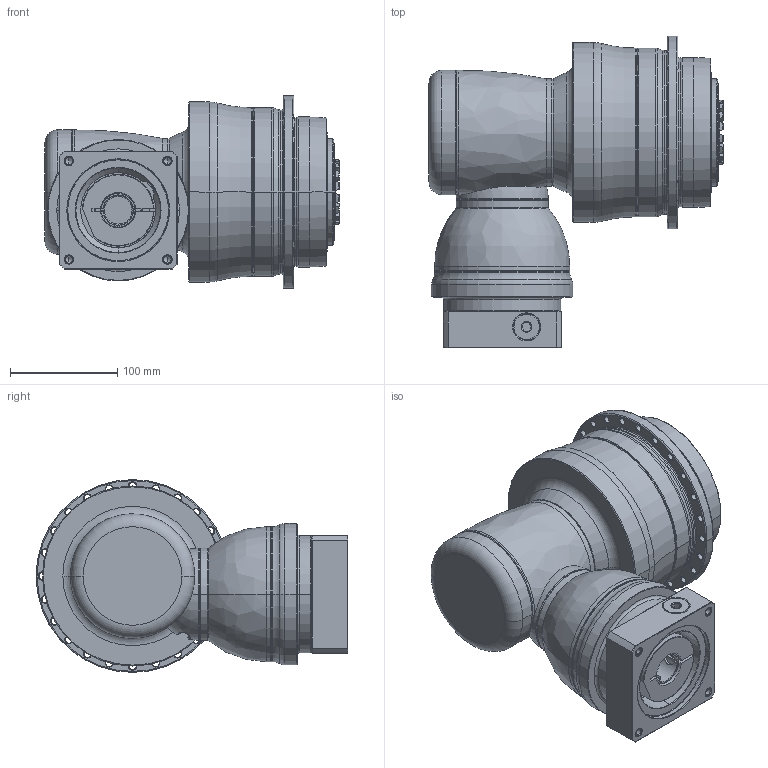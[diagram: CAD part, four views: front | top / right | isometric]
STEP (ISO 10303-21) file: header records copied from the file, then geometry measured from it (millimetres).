
FILE_DESCRIPTION((''),'2;1');
FILE_NAME('APCK140_3ST_28-P0409610201_ASM','2018-05-11T',('d01226'),(''),'PRO/ENGINEER BY PARAMETRIC TECHNOLOGY CORPORATION, 2008410','PRO/ENGINEER BY PARAMETRIC TECHNOLOGY CORPORATION, 2008410','');
FILE_SCHEMA(('CONFIG_CONTROL_DESIGN'));
Length unit declared in the file: millimetre
Products named in the file (13): P1008400002; P1832500001; P0278501003; P03595D0103; P1211500001; P1315400001; P1007401001; P1318410201; P0409610201; P0503600010; P0129452001; 21711418017; APCK140_3ST_28-P0409610201_ASM
Assembly tree (12 placements, depth 2):
  APCK140_3ST_28-P0409610201_ASM
    P1008400002
    P1832500001
    P0278501003
    P03595D0103
    P1211500001
    P1315400001
    P1007401001
    P1318410201
    P0409610201
    P0503600010
    P0129452001
    21711418017
Bounding box: 274.4 x 291 x 180 mm (x, y, z)
Volume: 5094485.2 mm3; surface area: 540124.1 mm2
Topology: 13 solids, 23 shells, 727 faces, 1706 edges, 1036 vertices
Faces by surface type: cylinder 224, cone 221, plane 133, torus 117, bspline 30, sphere 2
Entity records: 24110 total; most frequent: CARTESIAN_POINT 6957, DIRECTION 3848, ORIENTED_EDGE 3342, EDGE_CURVE 1692, AXIS2_PLACEMENT_3D 1687, VERTEX_POINT 1036, CIRCLE 955, EDGE_LOOP 834
